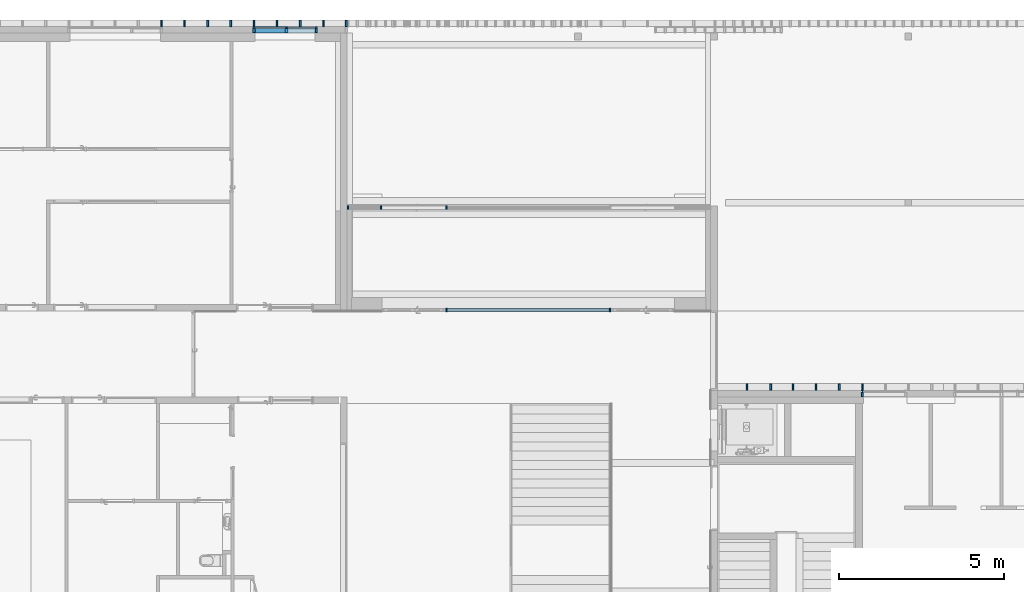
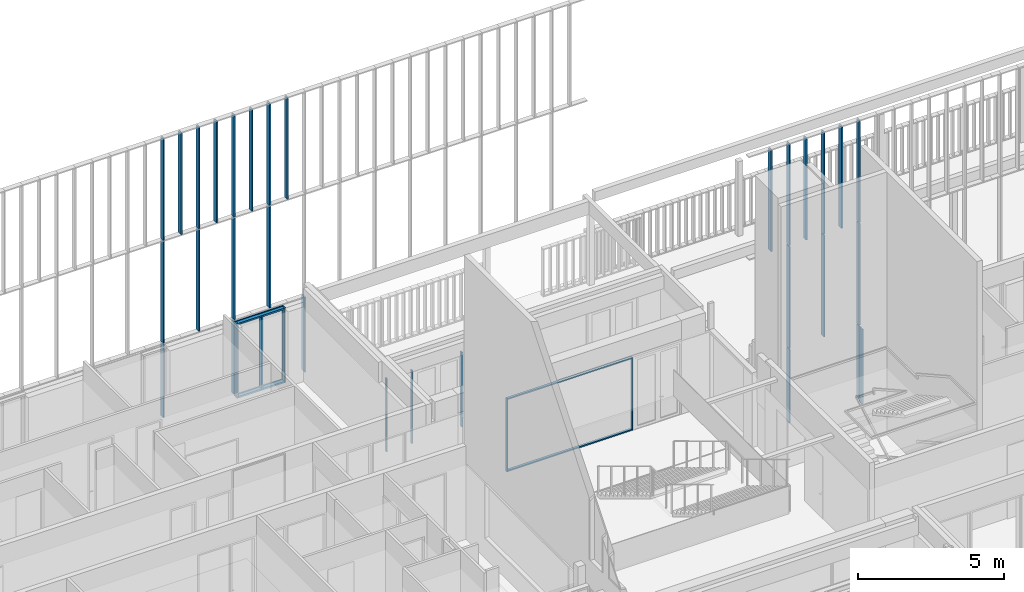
# One storey, part 22 of 240: 40 members, 7 elements without a shape of their own.
"""IFC2X3 building model written with IfcOpenShell, lengths in centimetres."""

from ifc_helpers import new_model, entity, si_unit, converted_unit, derived_unit, direction, frame, origin, origin_2d_with_axis, place, context, subcontext, project, spatial, polyline, rectangle, outline, extrude, source, transform, mapped, material, type_object, type_shapes, element, aggregate, save


model = new_model("IFC2X3")

# Units and contexts
model_context = context("Model", 3, precision=0.001, world=origin(), true_north=direction((6.12303176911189e-17, 1.0)))
body_context = subcontext(model_context, "Body", "Model", "MODEL_VIEW")
ifc_project = project(units=[si_unit("LENGTHUNIT", "METRE", prefix="CENTI"), si_unit("AREAUNIT", "SQUARE_METRE"), si_unit("VOLUMEUNIT", "CUBIC_METRE"), converted_unit("PLANEANGLEUNIT", "DEGREE", entity("IfcRatioMeasure", 0.0174532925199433), si_unit("PLANEANGLEUNIT", "RADIAN"), dimensions=[0, 0, 0, 0, 0, 0, 0]), si_unit("MASSUNIT", "GRAM", prefix="KILO"), derived_unit("MASSDENSITYUNIT", [(si_unit("MASSUNIT", "GRAM", prefix="KILO"), 1), (si_unit("LENGTHUNIT", "METRE"), -3)]), si_unit("TIMEUNIT", "SECOND"), si_unit("FREQUENCYUNIT", "HERTZ"), si_unit("THERMODYNAMICTEMPERATUREUNIT", "DEGREE_CELSIUS"), derived_unit("THERMALTRANSMITTANCEUNIT", [(si_unit("MASSUNIT", "GRAM", prefix="KILO"), 1), (si_unit("THERMODYNAMICTEMPERATUREUNIT", "KELVIN"), -1), (si_unit("TIMEUNIT", "SECOND"), -3)]), derived_unit("VOLUMETRICFLOWRATEUNIT", [(si_unit("LENGTHUNIT", "METRE"), 3), (si_unit("TIMEUNIT", "SECOND"), -1)]), si_unit("ELECTRICCURRENTUNIT", "AMPERE"), si_unit("ELECTRICVOLTAGEUNIT", "VOLT"), si_unit("POWERUNIT", "WATT"), si_unit("FORCEUNIT", "NEWTON", prefix="KILO"), si_unit("ILLUMINANCEUNIT", "LUX"), si_unit("LUMINOUSFLUXUNIT", "LUMEN"), si_unit("LUMINOUSINTENSITYUNIT", "CANDELA"), derived_unit("USERDEFINED", [(si_unit("MASSUNIT", "GRAM", prefix="KILO"), -1), (si_unit("LENGTHUNIT", "METRE"), -2), (si_unit("TIMEUNIT", "SECOND"), 3), (si_unit("LUMINOUSFLUXUNIT", "LUMEN"), 1)]), derived_unit("LINEARVELOCITYUNIT", [(si_unit("LENGTHUNIT", "METRE"), 1), (si_unit("TIMEUNIT", "SECOND"), -1)]), si_unit("PRESSUREUNIT", "PASCAL"), derived_unit("USERDEFINED", [(si_unit("LENGTHUNIT", "METRE"), -2), (si_unit("MASSUNIT", "GRAM", prefix="KILO"), 1), (si_unit("TIMEUNIT", "SECOND"), -2)])], contexts=[model_context])

# Site, building, storey
site_placement = place(None, frame((-2781.94577612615, 7442.24238424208, 0.0)))
site = spatial("IfcSite", under=ifc_project, at=site_placement, Name="Default", CompositionType="ELEMENT")
building_placement = place(site_placement, origin())
building = spatial("IfcBuilding", under=site, at=building_placement, CompositionType="ELEMENT")
storey_placement = place(building_placement, origin())
storey = spatial("IfcBuildingStorey", under=building, at=storey_placement, Name="N00 - COO", CompositionType="ELEMENT", Elevation=0.0)

# Curtain wall, member
curtain_wall_type_1 = type_object("IfcCurtainWallType", Name="Mur-rideau:07 - mur rideau trame 280 cm", PredefinedType="NOTDEFINED")
curtain_wall_1_placement = place(building_placement, origin())
curtain_wall_1 = element("IfcCurtainWall", 1, at=curtain_wall_1_placement, inside=storey, type_object=curtain_wall_type_1, Name="Mur-rideau:07 - mur rideau trame 280 cm", ObjectType="Mur-rideau:07 - mur rideau trame 280 cm")
ifc_material_1 = material(Name="Aluminium")
member_type_1 = type_object("IfcMemberType", Name="150 x 25mm Détails", PredefinedType="MEMBER")
shared_shape_1 = source(origin(), body_context, "Body", "SweptSolid", [
    extrude(outline(polyline([(-13.3333333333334, -3.25000000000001), (0.166666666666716, -3.25000000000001), (0.166666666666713, -0.86874999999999), (3.66666666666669, -0.86874999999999), (3.66666666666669, -3.24999999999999), (5.66666666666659, -3.24999999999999), (5.66666666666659, 3.25), (3.66666666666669, 3.25), (3.66666666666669, 0.868749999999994), (0.166666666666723, 0.868749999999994), (0.166666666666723, 3.25000000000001), (-13.3333333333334, 3.24999999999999), (-13.3333333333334, -3.25000000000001)])), frame((-3.24999999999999, 1.96666666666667, -312.5), z_axis=(0.0, 0.0, 1.0), x_axis=(0.0, -1.0, 0.0)), (0.0, 0.0, 1.0), 312.5),
])
type_shapes(member_type_1, [shared_shape_1])
member_1_placement = place(building_placement, frame((-4947.99987760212, 26.2000000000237, 0.0), z_axis=(0.0, 0.0, -1.0), x_axis=(1.0, 0.0, 0.0)))
member_1 = element("IfcMember", 2, at=member_1_placement, type_object=member_type_1, material=ifc_material_1, Name="Meneau rectangulaire:150 x 25mm Détails", ObjectType="Meneau rectangulaire:150 x 25mm Détails", context=body_context, shape_type="MappedRepresentation", body=[
    mapped(shared_shape_1, transform((0.0, 0.0, 0.0), scale=1.0)),
])

curtain_wall_2_placement = place(building_placement, origin())
curtain_wall_2 = element("IfcCurtainWall", 3, at=curtain_wall_2_placement, inside=storey, type_object=curtain_wall_type_1, Name="Mur-rideau:07 - mur rideau trame 280 cm", ObjectType="Mur-rideau:07 - mur rideau trame 280 cm")
member_type_2 = type_object("IfcMemberType", Name="150 x 25mm Détails", PredefinedType="MEMBER")
shared_shape_2 = source(origin(), body_context, "Body", "SweptSolid", [
    extrude(outline(polyline([(-13.3333333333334, -3.24999999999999), (0.166666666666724, -3.24999999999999), (0.166666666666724, -0.868749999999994), (3.66666666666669, -0.868749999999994), (3.66666666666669, -3.25), (5.6666666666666, -3.25), (5.6666666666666, 3.24999999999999), (3.66666666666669, 3.24999999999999), (3.66666666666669, 0.86874999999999), (0.166666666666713, 0.86874999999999), (0.166666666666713, 3.25000000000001), (-13.3333333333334, 3.25000000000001), (-13.3333333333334, -3.24999999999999)])), frame((-3.24999999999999, 1.96666666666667, -312.5), z_axis=(0.0, 0.0, 1.0), x_axis=(0.0, -1.0, 0.0)), (0.0, 0.0, 1.0), 312.5),
])
type_shapes(member_type_2, [shared_shape_2])
member_2_placement = place(building_placement, frame((-3212.54988284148, -1073.7999999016, 312.5), z_axis=(0.0, 0.0, 1.0), x_axis=(-1.0, 0.0, 0.0)))
member_2 = element("IfcMember", 4, at=member_2_placement, type_object=member_type_2, material=ifc_material_1, Name="Meneau rectangulaire:150 x 25mm Détails", ObjectType="Meneau rectangulaire:150 x 25mm Détails", context=body_context, shape_type="MappedRepresentation", body=[
    mapped(shared_shape_2, transform((0.0, 0.0, 0.0), scale=1.0)),
])
aggregate(curtain_wall_2, [member_2])

# Member
member_3_placement = place(building_placement, frame((-4864.49987760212, 26.2000000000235, 312.5), z_axis=(0.0, 0.0, 1.0), x_axis=(-1.0, 0.0, 0.0)))
member_3 = element("IfcMember", 5, at=member_3_placement, type_object=member_type_2, material=ifc_material_1, Name="Meneau rectangulaire:150 x 25mm Détails", ObjectType="Meneau rectangulaire:150 x 25mm Détails", context=body_context, shape_type="MappedRepresentation", body=[
    mapped(shared_shape_2, transform((0.0, 0.0, 0.0), scale=1.0)),
])

member_type_3 = type_object("IfcMemberType", Name="150 x 25mm Détails", PredefinedType="MEMBER")
shared_shape_3 = source(origin(), body_context, "Body", "SweptSolid", [
    extrude(outline(polyline([(-13.3333333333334, -3.24999999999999), (0.166666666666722, -3.24999999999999), (0.166666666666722, -0.868749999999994), (3.66666666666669, -0.868749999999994), (3.66666666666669, -3.25), (5.66666666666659, -3.25), (5.66666666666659, 3.24999999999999), (3.66666666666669, 3.24999999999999), (3.66666666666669, 0.86874999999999), (0.166666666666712, 0.86874999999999), (0.166666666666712, 3.25000000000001), (-13.3333333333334, 3.25000000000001), (-13.3333333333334, -3.24999999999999)])), frame((-3.24999999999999, 1.96666666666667, -181.749999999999), z_axis=(0.0, 0.0, 1.0), x_axis=(0.0, -1.0, 0.0)), (0.0, 0.0, 1.0), 181.749999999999),
])
type_shapes(member_type_3, [shared_shape_3])
member_4_placement = place(building_placement, frame((-5046.24987760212, 26.200000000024, 0.0), z_axis=(-1.0, 0.0, 0.0), x_axis=(0.0, 0.0, -1.0)))
member_4 = element("IfcMember", 6, at=member_4_placement, type_object=member_type_3, material=ifc_material_1, Name="Meneau rectangulaire:150 x 25mm Détails", ObjectType="Meneau rectangulaire:150 x 25mm Détails", context=body_context, shape_type="MappedRepresentation", body=[
    mapped(shared_shape_3, transform((0.0, 0.0, 0.0), scale=1.0)),
])

member_type_4 = type_object("IfcMemberType", Name="150 x 25mm Détails", PredefinedType="MEMBER")
shared_shape_4 = source(origin(), body_context, "Body", "SweptSolid", [
    extrude(outline(polyline([(-13.3333333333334, -3.25000000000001), (0.166666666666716, -3.25000000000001), (0.166666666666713, -0.86874999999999), (3.66666666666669, -0.86874999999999), (3.66666666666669, -3.24999999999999), (5.66666666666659, -3.24999999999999), (5.66666666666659, 3.25), (3.66666666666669, 3.25), (3.66666666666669, 0.868749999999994), (0.166666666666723, 0.868749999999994), (0.166666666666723, 3.25000000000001), (-13.3333333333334, 3.24999999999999), (-13.3333333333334, -3.25000000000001)])), frame((-3.24999999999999, 1.96666666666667, -313.0), z_axis=(0.0, 0.0, 1.0), x_axis=(0.0, -1.0, 0.0)), (0.0, 0.0, 1.0), 313.0),
])
type_shapes(member_type_4, [shared_shape_4])
member_5_placement = place(building_placement, frame((-4857.99987760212, 26.2000000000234, 0.0), z_axis=(0.0, 0.0, -1.0), x_axis=(1.0, 0.0, 0.0)))
member_5 = element("IfcMember", 7, at=member_5_placement, type_object=member_type_4, material=ifc_material_1, Name="Meneau rectangulaire:150 x 25mm Détails", ObjectType="Meneau rectangulaire:150 x 25mm Détails", context=body_context, shape_type="MappedRepresentation", body=[
    mapped(shared_shape_4, transform((0.0, 0.0, 0.0), scale=1.0)),
])

member_type_5 = type_object("IfcMemberType", Name="150 x 25mm Détails", PredefinedType="MEMBER")
shared_shape_5 = source(origin(), body_context, "Body", "SweptSolid", [
    extrude(outline(polyline([(-13.3333333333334, -3.24999999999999), (0.166666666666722, -3.24999999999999), (0.166666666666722, -0.868749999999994), (3.66666666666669, -0.868749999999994), (3.66666666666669, -3.25), (5.66666666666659, -3.25), (5.66666666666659, 3.24999999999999), (3.66666666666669, 3.24999999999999), (3.66666666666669, 0.86874999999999), (0.166666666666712, 0.86874999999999), (0.166666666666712, 3.25000000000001), (-13.3333333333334, 3.25000000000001), (-13.3333333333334, -3.24999999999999)])), frame((-3.24999999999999, 1.96666666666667, -313.0), z_axis=(0.0, 0.0, 1.0), x_axis=(0.0, -1.0, 0.0)), (0.0, 0.0, 1.0), 313.0),
])
type_shapes(member_type_5, [shared_shape_5])
member_6_placement = place(building_placement, frame((-5052.74987760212, 26.2000000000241, 313.0), z_axis=(0.0, 0.0, 1.0), x_axis=(-1.0, 0.0, 0.0)))
member_6 = element("IfcMember", 8, at=member_6_placement, type_object=member_type_5, material=ifc_material_1, Name="Meneau rectangulaire:150 x 25mm Détails", ObjectType="Meneau rectangulaire:150 x 25mm Détails", context=body_context, shape_type="MappedRepresentation", body=[
    mapped(shared_shape_5, transform((0.0, 0.0, 0.0), scale=1.0)),
])

member_type_6 = type_object("IfcMemberType", Name="150 x 25mm Détails", PredefinedType="MEMBER")
shared_shape_6 = source(origin(), body_context, "Body", "SweptSolid", [
    extrude(outline(polyline([(-13.3333333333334, -3.25000000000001), (0.166666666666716, -3.25000000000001), (0.166666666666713, -0.86874999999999), (3.66666666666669, -0.86874999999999), (3.66666666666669, -3.24999999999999), (5.66666666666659, -3.24999999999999), (5.66666666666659, 3.25), (3.66666666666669, 3.25), (3.66666666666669, 0.868749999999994), (0.166666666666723, 0.868749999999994), (0.166666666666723, 3.25000000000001), (-13.3333333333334, 3.24999999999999), (-13.3333333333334, -3.25000000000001)])), frame((-3.24999999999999, 1.96666666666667, -181.749999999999), z_axis=(0.0, 0.0, 1.0), x_axis=(0.0, -1.0, 0.0)), (0.0, 0.0, 1.0), 181.749999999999),
])
type_shapes(member_type_6, [shared_shape_6])
member_7_placement = place(building_placement, frame((-4864.49987760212, 26.2000000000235, 313.0), z_axis=(1.0, 0.0, 0.0), x_axis=(0.0, 0.0, 1.0)))
member_7 = element("IfcMember", 9, at=member_7_placement, type_object=member_type_6, material=ifc_material_1, Name="Meneau rectangulaire:150 x 25mm Détails", ObjectType="Meneau rectangulaire:150 x 25mm Détails", context=body_context, shape_type="MappedRepresentation", body=[
    mapped(shared_shape_6, transform((0.0, 0.0, 0.0), scale=1.0)),
])

aggregate(curtain_wall_1, [member_4, member_5, member_6, member_3, member_1, member_7])

# Curtain wall, members
curtain_wall_type_2 = type_object("IfcCurtainWallType", Name="Mur-rideau:Epines - 200x50mm", PredefinedType="NOTDEFINED")
curtain_wall_3_placement = place(building_placement, origin())
curtain_wall_3 = element("IfcCurtainWall", 10, at=curtain_wall_3_placement, inside=storey, type_object=curtain_wall_type_2, Name="Mur-rideau:Epines - 200x50mm", ObjectType="Mur-rideau:Epines - 200x50mm")
member_type_7 = type_object("IfcMemberType", Name="200x50 mm", PredefinedType="MEMBER")
shared_shape_7 = source(origin(), body_context, "Body", "SweptSolid", [
    extrude(rectangle(XDim=20.0, YDim=5.0, at=origin_2d_with_axis()), frame((0.0, 0.0, -423.0), z_axis=(0.0, 0.0, 1.0), x_axis=(0.0, -1.0, 0.0)), (0.0, 0.0, 1.0), 423.000000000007),
])
type_shapes(member_type_7, [shared_shape_7])
member_8_placement = place(building_placement, frame((-5049.49987760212, 40.0, 748.0), z_axis=(0.0, 0.0, -1.0), x_axis=(1.0, 0.0, 0.0)))
member_8 = element("IfcMember", 11, at=member_8_placement, type_object=member_type_7, material=ifc_material_1, Name="Meneau rectangulaire:200x50 mm", ObjectType="Meneau rectangulaire:200x50 mm", context=body_context, shape_type="MappedRepresentation", body=[
    mapped(shared_shape_7, transform((0.0, 0.0, 0.0), scale=1.0)),
])
member_9_placement = place(building_placement, frame((-5329.49987760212, 40.0, 748.0), z_axis=(0.0, 0.0, -1.0), x_axis=(1.0, 0.0, 0.0)))
member_9 = element("IfcMember", 12, at=member_9_placement, type_object=member_type_7, material=ifc_material_1, Name="Meneau rectangulaire:200x50 mm", ObjectType="Meneau rectangulaire:200x50 mm", context=body_context, shape_type="MappedRepresentation", body=[
    mapped(shared_shape_7, transform((0.0, 0.0, 0.0), scale=1.0)),
])
member_10_placement = place(building_placement, frame((-4839.49987760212, 40.0, 748.0), z_axis=(0.0, 0.0, -1.0), x_axis=(1.0, 0.0, 0.0)))
member_10 = element("IfcMember", 13, at=member_10_placement, type_object=member_type_7, material=ifc_material_1, Name="Meneau rectangulaire:200x50 mm", ObjectType="Meneau rectangulaire:200x50 mm", context=body_context, shape_type="MappedRepresentation", body=[
    mapped(shared_shape_7, transform((0.0, 0.0, 0.0), scale=1.0)),
])
member_11_placement = place(building_placement, frame((-4979.49987760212, 40.0, 748.0), z_axis=(0.0, 0.0, -1.0), x_axis=(1.0, 0.0, 0.0)))
member_11 = element("IfcMember", 14, at=member_11_placement, type_object=member_type_7, material=ifc_material_1, Name="Meneau rectangulaire:200x50 mm", ObjectType="Meneau rectangulaire:200x50 mm", context=body_context, shape_type="MappedRepresentation", body=[
    mapped(shared_shape_7, transform((0.0, 0.0, 0.0), scale=1.0)),
])
member_12_placement = place(building_placement, frame((-4909.49987760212, 40.0, 748.0), z_axis=(0.0, 0.0, -1.0), x_axis=(1.0, 0.0, 0.0)))
member_12 = element("IfcMember", 15, at=member_12_placement, type_object=member_type_7, material=ifc_material_1, Name="Meneau rectangulaire:200x50 mm", ObjectType="Meneau rectangulaire:200x50 mm", context=body_context, shape_type="MappedRepresentation", body=[
    mapped(shared_shape_7, transform((0.0, 0.0, 0.0), scale=1.0)),
])
member_13_placement = place(building_placement, frame((-5189.49987760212, 40.0, 748.0), z_axis=(0.0, 0.0, -1.0), x_axis=(1.0, 0.0, 0.0)))
member_13 = element("IfcMember", 16, at=member_13_placement, type_object=member_type_7, material=ifc_material_1, Name="Meneau rectangulaire:200x50 mm", ObjectType="Meneau rectangulaire:200x50 mm", context=body_context, shape_type="MappedRepresentation", body=[
    mapped(shared_shape_7, transform((0.0, 0.0, 0.0), scale=1.0)),
])
member_14_placement = place(building_placement, frame((-5119.49987760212, 40.0, 748.0), z_axis=(0.0, 0.0, -1.0), x_axis=(1.0, 0.0, 0.0)))
member_14 = element("IfcMember", 17, at=member_14_placement, type_object=member_type_7, material=ifc_material_1, Name="Meneau rectangulaire:200x50 mm", ObjectType="Meneau rectangulaire:200x50 mm", context=body_context, shape_type="MappedRepresentation", body=[
    mapped(shared_shape_7, transform((0.0, 0.0, 0.0), scale=1.0)),
])
member_15_placement = place(building_placement, frame((-5259.49987760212, 40.0, 748.0), z_axis=(0.0, 0.0, -1.0), x_axis=(1.0, 0.0, 0.0)))
member_15 = element("IfcMember", 18, at=member_15_placement, type_object=member_type_7, material=ifc_material_1, Name="Meneau rectangulaire:200x50 mm", ObjectType="Meneau rectangulaire:200x50 mm", context=body_context, shape_type="MappedRepresentation", body=[
    mapped(shared_shape_7, transform((0.0, 0.0, 0.0), scale=1.0)),
])
member_type_8 = type_object("IfcMemberType", Name="200x50 mm", PredefinedType="MEMBER")
shared_shape_8 = source(origin(), body_context, "Body", "SweptSolid", [
    extrude(rectangle(XDim=20.0, YDim=5.0, at=origin_2d_with_axis()), frame((0.0, 0.0, -425.5), z_axis=(0.0, 0.0, 1.0), x_axis=(0.0, -1.0, 0.0)), (0.0, 0.0, 1.0), 425.5),
])
type_shapes(member_type_8, [shared_shape_8])
member_16_placement = place(building_placement, frame((-5049.49987760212, 40.0, 317.5), z_axis=(0.0, 0.0, -1.0), x_axis=(1.0, 0.0, 0.0)))
member_16 = element("IfcMember", 19, at=member_16_placement, type_object=member_type_8, material=ifc_material_1, Name="Meneau rectangulaire:200x50 mm", ObjectType="Meneau rectangulaire:200x50 mm", context=body_context, shape_type="MappedRepresentation", body=[
    mapped(shared_shape_8, transform((0.0, 0.0, 0.0), scale=1.0)),
])
member_17_placement = place(building_placement, frame((-5329.49987760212, 40.0, 317.5), z_axis=(0.0, 0.0, -1.0), x_axis=(1.0, 0.0, 0.0)))
member_17 = element("IfcMember", 20, at=member_17_placement, type_object=member_type_8, material=ifc_material_1, Name="Meneau rectangulaire:200x50 mm", ObjectType="Meneau rectangulaire:200x50 mm", context=body_context, shape_type="MappedRepresentation", body=[
    mapped(shared_shape_8, transform((0.0, 0.0, 0.0), scale=1.0)),
])
member_18_placement = place(building_placement, frame((-4909.49987760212, 40.0, 317.5), z_axis=(0.0, 0.0, -1.0), x_axis=(1.0, 0.0, 0.0)))
member_18 = element("IfcMember", 21, at=member_18_placement, type_object=member_type_8, material=ifc_material_1, Name="Meneau rectangulaire:200x50 mm", ObjectType="Meneau rectangulaire:200x50 mm", context=body_context, shape_type="MappedRepresentation", body=[
    mapped(shared_shape_8, transform((0.0, 0.0, 0.0), scale=1.0)),
])
member_19_placement = place(building_placement, frame((-5189.49987760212, 40.0, 317.5), z_axis=(0.0, 0.0, -1.0), x_axis=(1.0, 0.0, 0.0)))
member_19 = element("IfcMember", 22, at=member_19_placement, type_object=member_type_8, material=ifc_material_1, Name="Meneau rectangulaire:200x50 mm", ObjectType="Meneau rectangulaire:200x50 mm", context=body_context, shape_type="MappedRepresentation", body=[
    mapped(shared_shape_8, transform((0.0, 0.0, 0.0), scale=1.0)),
])
member_type_9 = type_object("IfcMemberType", Name="200x50 mm", PredefinedType="MEMBER")
shared_shape_9 = source(origin(), body_context, "Body", "SweptSolid", [
    extrude(rectangle(XDim=20.0, YDim=5.0, at=origin_2d_with_axis()), frame((0.0, 0.0, -307.5), z_axis=(0.0, 0.0, 1.0), x_axis=(0.0, -1.0, 0.0)), (0.0, 0.0, 1.0), 307.5),
])
type_shapes(member_type_9, [shared_shape_9])
member_20_placement = place(building_placement, frame((-5049.49987760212, 40.0, 5.0), z_axis=(0.0, 0.0, -1.0), x_axis=(1.0, 0.0, 0.0)))
member_20 = element("IfcMember", 23, at=member_20_placement, type_object=member_type_9, material=ifc_material_1, Name="Meneau rectangulaire:200x50 mm", ObjectType="Meneau rectangulaire:200x50 mm", context=body_context, shape_type="MappedRepresentation", body=[
    mapped(shared_shape_9, transform((0.0, 0.0, 0.0), scale=1.0)),
])
member_21_placement = place(building_placement, frame((-5329.49987760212, 40.0, 5.0), z_axis=(0.0, 0.0, -1.0), x_axis=(1.0, 0.0, 0.0)))
member_21 = element("IfcMember", 24, at=member_21_placement, type_object=member_type_9, material=ifc_material_1, Name="Meneau rectangulaire:200x50 mm", ObjectType="Meneau rectangulaire:200x50 mm", context=body_context, shape_type="MappedRepresentation", body=[
    mapped(shared_shape_9, transform((0.0, 0.0, 0.0), scale=1.0)),
])
member_type_10 = type_object("IfcMemberType", Name="200x50 mm", PredefinedType="MEMBER")
shared_shape_10 = source(origin(), body_context, "Body", "SweptSolid", [
    extrude(rectangle(XDim=20.0, YDim=5.0, at=origin_2d_with_axis()), frame((-2.5, 0.0, -313.499999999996), z_axis=(0.0, 0.0, 1.0), x_axis=(0.0, -1.0, 0.0)), (0.0, 0.0, 1.0), 313.499999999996),
])
type_shapes(member_type_10, [shared_shape_10])
member_22_placement = place(building_placement, frame((-4767.99987760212, 40.0, 0.0), z_axis=(0.0, 0.0, -1.0), x_axis=(1.0, 0.0, 0.0)))
member_22 = element("IfcMember", 25, at=member_22_placement, type_object=member_type_10, material=ifc_material_1, Name="Meneau rectangulaire:200x50 mm", ObjectType="Meneau rectangulaire:200x50 mm", context=body_context, shape_type="MappedRepresentation", body=[
    mapped(shared_shape_10, transform((0.0, 0.0, 0.0), scale=1.0)),
])
aggregate(curtain_wall_3, [member_8, member_16, member_20, member_9, member_17, member_21, member_22, member_10, member_11, member_12, member_18, member_13, member_19, member_14, member_15])

# Curtain wall, member
curtain_wall_type_3 = type_object("IfcCurtainWallType", Name="Mur-rideau:07 - mur rideau vitrage sans recoupement 10cm", PredefinedType="NOTDEFINED")
curtain_wall_4_placement = place(building_placement, origin())
curtain_wall_4 = element("IfcCurtainWall", 26, at=curtain_wall_4_placement, inside=storey, type_object=curtain_wall_type_3, Name="Mur-rideau:07 - mur rideau vitrage sans recoupement 10cm", ObjectType="Mur-rideau:07 - mur rideau vitrage sans recoupement 10cm")
ifc_material_2 = material(Name="Plastique, blanc opaque")
member_type_11 = type_object("IfcMemberType", Name="100 x 50mm", PredefinedType="MEMBER")
shared_shape_11 = source(origin(), body_context, "Body", "SweptSolid", [
    extrude(rectangle(XDim=10.0, YDim=5.0, at=origin_2d_with_axis()), frame((-2.5, 0.0, -306.0), z_axis=(0.0, 0.0, 1.0), x_axis=(0.0, -1.0, 0.0)), (0.0, 0.0, 1.0), 306.0),
])
type_shapes(member_type_11, [shared_shape_11])
member_23_placement = place(building_placement, frame((-4767.99987760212, -517.548500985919, 0.0), z_axis=(0.0, 0.0, -1.0), x_axis=(-1.0, 0.0, 0.0)))
member_23 = element("IfcMember", 27, at=member_23_placement, type_object=member_type_11, material=ifc_material_2, Name="Meneau rectangulaire:100 x 50mm", ObjectType="Meneau rectangulaire:100 x 50mm", context=body_context, shape_type="MappedRepresentation", body=[
    mapped(shared_shape_11, transform((0.0, 0.0, 0.0), scale=1.0)),
])

curtain_wall_5_placement = place(building_placement, origin())
curtain_wall_5 = element("IfcCurtainWall", 28, at=curtain_wall_5_placement, inside=storey, type_object=curtain_wall_type_3, Name="Mur-rideau:07 - mur rideau vitrage sans recoupement 10cm", ObjectType="Mur-rideau:07 - mur rideau vitrage sans recoupement 10cm")
member_24_placement = place(building_placement, frame((-4469.99987968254, -827.048500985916, 0.0), z_axis=(0.0, 0.0, -1.0), x_axis=(-1.0, 0.0, 0.0)))
member_24 = element("IfcMember", 29, at=member_24_placement, type_object=member_type_11, material=ifc_material_2, Name="Meneau rectangulaire:100 x 50mm", ObjectType="Meneau rectangulaire:100 x 50mm", context=body_context, shape_type="MappedRepresentation", body=[
    mapped(shared_shape_11, transform((0.0, 0.0, 0.0), scale=1.0)),
])

# Member
member_type_12 = type_object("IfcMemberType", Name="100 x 50mm", PredefinedType="MEMBER")
shared_shape_12 = source(origin(), body_context, "Body", "SweptSolid", [
    extrude(rectangle(XDim=10.0, YDim=5.0, at=origin_2d_with_axis()), frame((-2.5, 0.0, -306.0), z_axis=(0.0, 0.0, 1.0), x_axis=(0.0, -1.0, 0.0)), (0.0, 0.0, 1.0), 306.0),
])
type_shapes(member_type_12, [shared_shape_12])
member_25_placement = place(building_placement, frame((-4662.75692494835, -517.548500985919, 306.0)))
member_25 = element("IfcMember", 30, at=member_25_placement, type_object=member_type_12, material=ifc_material_2, Name="Meneau rectangulaire:100 x 50mm", ObjectType="Meneau rectangulaire:100 x 50mm", context=body_context, shape_type="MappedRepresentation", body=[
    mapped(shared_shape_12, transform((0.0, 0.0, 0.0), scale=1.0)),
])

aggregate(curtain_wall_4, [member_23, member_25])

member_26_placement = place(building_placement, frame((-3969.99987968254, -827.048500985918, 306.0)))
member_26 = element("IfcMember", 31, at=member_26_placement, type_object=member_type_12, material=ifc_material_2, Name="Meneau rectangulaire:100 x 50mm", ObjectType="Meneau rectangulaire:100 x 50mm", context=body_context, shape_type="MappedRepresentation", body=[
    mapped(shared_shape_12, transform((0.0, 0.0, 0.0), scale=1.0)),
])

member_type_13 = type_object("IfcMemberType", Name="100 x 50mm", PredefinedType="MEMBER")
shared_shape_13 = source(origin(), body_context, "Body", "SweptSolid", [
    extrude(rectangle(XDim=10.0, YDim=5.0, at=origin_2d_with_axis()), frame((-2.5, 0.0, -490.0), z_axis=(0.0, 0.0, 1.0), x_axis=(0.0, -1.0, 0.0)), (0.0, 0.0, 1.0), 490.0),
])
type_shapes(member_type_13, [shared_shape_13])
member_27_placement = place(building_placement, frame((-4464.99987968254, -827.048500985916, 306.0), z_axis=(-1.0, 0.0, 0.0), x_axis=(0.0, 0.0, 1.0)))
member_27 = element("IfcMember", 32, at=member_27_placement, type_object=member_type_13, material=ifc_material_2, Name="Meneau rectangulaire:100 x 50mm", ObjectType="Meneau rectangulaire:100 x 50mm", context=body_context, shape_type="MappedRepresentation", body=[
    mapped(shared_shape_13, transform((0.0, 0.0, 0.0), scale=1.0)),
])

member_type_14 = type_object("IfcMemberType", Name="100 x 50mm", PredefinedType="MEMBER")
shared_shape_14 = source(origin(), body_context, "Body", "SweptSolid", [
    extrude(rectangle(XDim=10.0, YDim=5.0, at=origin_2d_with_axis()), frame((-2.5, 0.0, -490.0), z_axis=(0.0, 0.0, 1.0), x_axis=(0.0, -1.0, 0.0)), (0.0, 0.0, 1.0), 490.0),
])
type_shapes(member_type_14, [shared_shape_14])
member_28_placement = place(building_placement, frame((-3974.99987968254, -827.048500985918, 0.0), z_axis=(1.0, 0.0, 0.0), x_axis=(0.0, 0.0, -1.0)))
member_28 = element("IfcMember", 33, at=member_28_placement, type_object=member_type_14, material=ifc_material_2, Name="Meneau rectangulaire:100 x 50mm", ObjectType="Meneau rectangulaire:100 x 50mm", context=body_context, shape_type="MappedRepresentation", body=[
    mapped(shared_shape_14, transform((0.0, 0.0, 0.0), scale=1.0)),
])

aggregate(curtain_wall_5, [member_27, member_28, member_24, member_26])

# Curtain wall, member
curtain_wall_6_placement = place(building_placement, origin())
curtain_wall_6 = element("IfcCurtainWall", 34, at=curtain_wall_6_placement, inside=storey, type_object=curtain_wall_type_3, Name="Mur-rideau:07 - mur rideau vitrage sans recoupement 10cm", ObjectType="Mur-rideau:07 - mur rideau vitrage sans recoupement 10cm")
member_type_15 = type_object("IfcMemberType", Name="100 x 50mm", PredefinedType="MEMBER")
shared_shape_15 = source(origin(), body_context, "Body", "SweptSolid", [
    extrude(rectangle(XDim=10.0, YDim=5.0, at=origin_2d_with_axis()), frame((-2.5, 0.0, -313.0), z_axis=(0.0, 0.0, 1.0), x_axis=(0.0, -1.0, 0.0)), (0.0, 0.0, 1.0), 313.0),
])
type_shapes(member_type_15, [shared_shape_15])
member_29_placement = place(building_placement, frame((-4469.99987968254, -517.54850098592, 313.0), z_axis=(0.0, 0.0, 1.0), x_axis=(-1.0, 0.0, 0.0)))
member_29 = element("IfcMember", 35, at=member_29_placement, type_object=member_type_15, material=ifc_material_2, Name="Meneau rectangulaire:100 x 50mm", ObjectType="Meneau rectangulaire:100 x 50mm", context=body_context, shape_type="MappedRepresentation", body=[
    mapped(shared_shape_15, transform((0.0, 0.0, 0.0), scale=1.0)),
])
aggregate(curtain_wall_6, [member_29])

# Curtain wall, members
curtain_wall_type_4 = type_object("IfcCurtainWallType", Name="Mur-rideau:Epines - 200x30mm", PredefinedType="NOTDEFINED")
curtain_wall_7_placement = place(storey_placement, origin())
curtain_wall_7 = element("IfcCurtainWall", 36, at=curtain_wall_7_placement, inside=storey, type_object=curtain_wall_type_4, Name="Mur-rideau:Epines - 200x30mm", ObjectType="Mur-rideau:Epines - 200x30mm")
member_type_16 = type_object("IfcMemberType", Name="200x50 mm nord", PredefinedType="MEMBER")
shared_shape_16 = source(origin(), body_context, "Body", "SweptSolid", [
    extrude(rectangle(XDim=20.0, YDim=5.0, at=origin_2d_with_axis()), frame((0.0, 0.0, -423.0), z_axis=(0.0, 0.0, 1.0), x_axis=(0.0, -1.0, 0.0)), (0.0, 0.0, 1.0), 423.000000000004),
])
type_shapes(member_type_16, [shared_shape_16])
member_30_placement = place(storey_placement, frame((-3209.29988284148, -1060.0, 748.0), z_axis=(0.0, 0.0, -1.0), x_axis=(1.0, 0.0, 0.0)))
member_30 = element("IfcMember", 37, at=member_30_placement, type_object=member_type_16, material=ifc_material_1, Name="Meneau rectangulaire:200x50 mm nord", ObjectType="Meneau rectangulaire:200x50 mm nord", context=body_context, shape_type="MappedRepresentation", body=[
    mapped(shared_shape_16, transform((0.0, 0.0, 0.0), scale=1.0)),
])
member_31_placement = place(storey_placement, frame((-3486.29988284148, -1060.0, 748.0), z_axis=(0.0, 0.0, -1.0), x_axis=(1.0, 0.0, 0.0)))
member_31 = element("IfcMember", 38, at=member_31_placement, type_object=member_type_16, material=ifc_material_1, Name="Meneau rectangulaire:200x50 mm nord", ObjectType="Meneau rectangulaire:200x50 mm nord", context=body_context, shape_type="MappedRepresentation", body=[
    mapped(shared_shape_16, transform((0.0, 0.0, 0.0), scale=1.0)),
])
member_32_placement = place(storey_placement, frame((-3349.29988284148, -1060.0, 748.0), z_axis=(0.0, 0.0, -1.0), x_axis=(1.0, 0.0, 0.0)))
member_32 = element("IfcMember", 39, at=member_32_placement, type_object=member_type_16, material=ifc_material_1, Name="Meneau rectangulaire:200x50 mm nord", ObjectType="Meneau rectangulaire:200x50 mm nord", context=body_context, shape_type="MappedRepresentation", body=[
    mapped(shared_shape_16, transform((0.0, 0.0, 0.0), scale=1.0)),
])
member_33_placement = place(storey_placement, frame((-3279.29988284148, -1060.0, 748.0), z_axis=(0.0, 0.0, -1.0), x_axis=(1.0, 0.0, 0.0)))
member_33 = element("IfcMember", 40, at=member_33_placement, type_object=member_type_16, material=ifc_material_1, Name="Meneau rectangulaire:200x50 mm nord", ObjectType="Meneau rectangulaire:200x50 mm nord", context=body_context, shape_type="MappedRepresentation", body=[
    mapped(shared_shape_16, transform((0.0, 0.0, 0.0), scale=1.0)),
])
member_34_placement = place(storey_placement, frame((-3419.29988284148, -1060.0, 748.0), z_axis=(0.0, 0.0, -1.0), x_axis=(1.0, 0.0, 0.0)))
member_34 = element("IfcMember", 41, at=member_34_placement, type_object=member_type_16, material=ifc_material_1, Name="Meneau rectangulaire:200x50 mm nord", ObjectType="Meneau rectangulaire:200x50 mm nord", context=body_context, shape_type="MappedRepresentation", body=[
    mapped(shared_shape_16, transform((0.0, 0.0, 0.0), scale=1.0)),
])
member_35_placement = place(storey_placement, frame((-3558.299881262, -1060.0, 748.0), z_axis=(0.0, 0.0, -1.0), x_axis=(1.0, 0.0, 0.0)))
member_35 = element("IfcMember", 42, at=member_35_placement, type_object=member_type_16, material=ifc_material_1, Name="Meneau rectangulaire:200x50 mm nord", ObjectType="Meneau rectangulaire:200x50 mm nord", context=body_context, shape_type="MappedRepresentation", body=[
    mapped(shared_shape_16, transform((0.0, 0.0, 0.0), scale=1.0)),
])
member_type_17 = type_object("IfcMemberType", Name="200x50 mm nord", PredefinedType="MEMBER")
shared_shape_17 = source(origin(), body_context, "Body", "SweptSolid", [
    extrude(rectangle(XDim=20.0, YDim=5.0, at=origin_2d_with_axis()), frame((0.0, 0.0, -425.0), z_axis=(0.0, 0.0, 1.0), x_axis=(0.0, -1.0, 0.0)), (0.0, 0.0, 1.0), 425.0),
])
type_shapes(member_type_17, [shared_shape_17])
member_36_placement = place(storey_placement, frame((-3209.29988284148, -1060.0, 318.0), z_axis=(0.0, 0.0, -1.0), x_axis=(1.0, 0.0, 0.0)))
member_36 = element("IfcMember", 43, at=member_36_placement, type_object=member_type_17, material=ifc_material_1, Name="Meneau rectangulaire:200x50 mm nord", ObjectType="Meneau rectangulaire:200x50 mm nord", context=body_context, shape_type="MappedRepresentation", body=[
    mapped(shared_shape_17, transform((0.0, 0.0, 0.0), scale=1.0)),
])
member_37_placement = place(storey_placement, frame((-3486.29988284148, -1060.0, 318.0), z_axis=(0.0, 0.0, -1.0), x_axis=(1.0, 0.0, 0.0)))
member_37 = element("IfcMember", 44, at=member_37_placement, type_object=member_type_17, material=ifc_material_1, Name="Meneau rectangulaire:200x50 mm nord", ObjectType="Meneau rectangulaire:200x50 mm nord", context=body_context, shape_type="MappedRepresentation", body=[
    mapped(shared_shape_17, transform((0.0, 0.0, 0.0), scale=1.0)),
])
member_38_placement = place(storey_placement, frame((-3349.29988284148, -1060.0, 318.0), z_axis=(0.0, 0.0, -1.0), x_axis=(1.0, 0.0, 0.0)))
member_38 = element("IfcMember", 45, at=member_38_placement, type_object=member_type_17, material=ifc_material_1, Name="Meneau rectangulaire:200x50 mm nord", ObjectType="Meneau rectangulaire:200x50 mm nord", context=body_context, shape_type="MappedRepresentation", body=[
    mapped(shared_shape_17, transform((0.0, 0.0, 0.0), scale=1.0)),
])
member_type_18 = type_object("IfcMemberType", Name="200x50 mm nord", PredefinedType="MEMBER")
shared_shape_18 = source(origin(), body_context, "Body", "SweptSolid", [
    extrude(rectangle(XDim=20.0, YDim=5.0, at=origin_2d_with_axis()), frame((0.0, 0.0, -308.0), z_axis=(0.0, 0.0, 1.0), x_axis=(0.0, -1.0, 0.0)), (0.0, 0.0, 1.0), 308.0),
])
type_shapes(member_type_18, [shared_shape_18])
member_39_placement = place(storey_placement, frame((-3209.29988284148, -1060.0, 5.0), z_axis=(0.0, 0.0, -1.0), x_axis=(1.0, 0.0, 0.0)))
member_39 = element("IfcMember", 46, at=member_39_placement, type_object=member_type_18, material=ifc_material_1, Name="Meneau rectangulaire:200x50 mm nord", ObjectType="Meneau rectangulaire:200x50 mm nord", context=body_context, shape_type="MappedRepresentation", body=[
    mapped(shared_shape_18, transform((0.0, 0.0, 0.0), scale=1.0)),
])
member_40_placement = place(storey_placement, frame((-3486.29988284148, -1060.0, 5.0), z_axis=(0.0, 0.0, -1.0), x_axis=(1.0, 0.0, 0.0)))
member_40 = element("IfcMember", 47, at=member_40_placement, type_object=member_type_18, material=ifc_material_1, Name="Meneau rectangulaire:200x50 mm nord", ObjectType="Meneau rectangulaire:200x50 mm nord", context=body_context, shape_type="MappedRepresentation", body=[
    mapped(shared_shape_18, transform((0.0, 0.0, 0.0), scale=1.0)),
])
aggregate(curtain_wall_7, [member_30, member_36, member_39, member_31, member_37, member_40, member_32, member_38, member_33, member_34, member_35])

save(model, "model.ifc")
